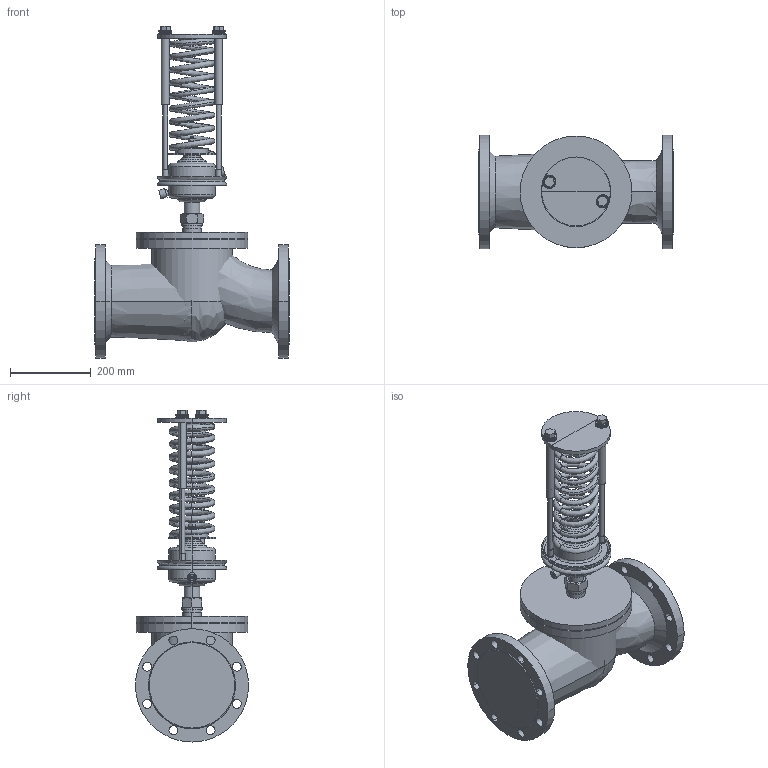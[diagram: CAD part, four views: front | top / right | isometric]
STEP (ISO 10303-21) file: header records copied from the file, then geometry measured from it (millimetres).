
FILE_DESCRIPTION(/* description */ (''),/* implementation_level */ '2;1');
FILE_NAME(/* name */ 'ETM_Регулятор давления_УРРД_НЗ_РД_DN150 0.05—0.3 МПа',/* time_stamp */ '2026-04-24T18:31:12+03:00',/* author */ (''),/* organization */ (''),/* preprocessor_version */ 'ST-DEVELOPER v20',/* originating_system */ '',/* authorisation */ '');
FILE_SCHEMA (('AP242_MANAGED_MODEL_BASED_3D_ENGINEERING_MIM_LF { 1 0 10303 442 1 1 4 }'));
Length unit declared in the file: millimetre
Products named in the file (13): TopLevelAssembly; Выдавливание; Переход; Выдавливание_
1; Переход_1; Переход_2; Переход_3; Объемная геометрия 
присоединена; Выдавливание_
2; Выдавливание_
3; Объемная геометрия 
присоединена_1; Выдавливание_
4; Пружина красная
Assembly tree (12 placements, depth 2):
  TopLevelAssembly
    Выдавливание
    Переход
    Выдавливание_
1
    Переход_1
    Переход_2
    Переход_3
    Объемная геометрия 
присоединена
    Выдавливание_
2
    Выдавливание_
3
    Объемная геометрия 
присоединена_1
    Выдавливание_
4
    Пружина красная
Bounding box: 480 x 280 x 820.2 mm (x, y, z)
Volume: 24724913.1 mm3; surface area: 1762460.6 mm2
Topology: 31 solids, 31 shells, 522 faces, 1053 edges, 573 vertices
Faces by surface type: plane 181, bspline 177, cylinder 154, cone 10
Entity records: 16710 total; most frequent: CARTESIAN_POINT 5365, DIRECTION 2393, ORIENTED_EDGE 2102, EDGE_CURVE 1051, AXIS2_PLACEMENT_3D 1006, CIRCLE 635, VERTEX_POINT 573, EDGE_LOOP 560
